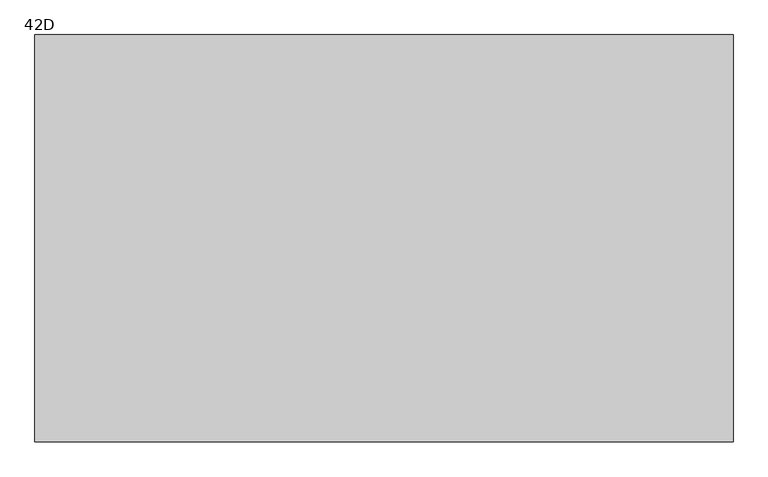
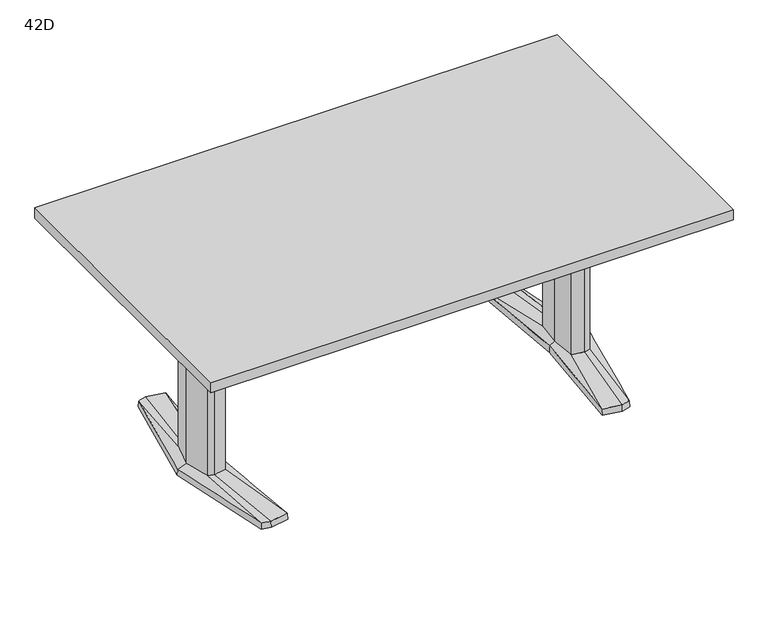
"""IFC4 building model written with IfcOpenShell, lengths in millimetres: furniture geometry, Coalesse_AM_Table_Conference_ETable2_Rectangular_72in_AluminiumBase : 42D."""

from ifc_helpers import new_model, si_unit, frame, origin, place, context, project, spatial, polyline, outline, extrude, source, transform, mapped, element, save
from ifc_brep_helpers import plane_surface, spline_surface, advanced_brep


def furniture_42d_c484a762(model_context):
    return source(origin(), model_context, "Body", "SolidModel", [
        advanced_brep(
        [(614.8503471, -379.3768856, 25.4), (644.5756636, -371.5332654, 25.4), (668.2327243, -89.293702, 36.5125), (648.9795254, -94.605478, 36.5125), (606.0521001, -87.0529327, 36.5125), (551.7612538, -368.5071562, 25.4), (597.9364207, 0.0, 36.5125), (579.8389754, 0.3970149, 25.4), (606.0521001, 87.0529327, 36.5125), (551.7615002, 368.5172593, 25.4), (648.9795254, 94.605478, 36.5125), (614.8502233, 379.3769183, 25.4), (668.2327243, 89.293702, 36.5125), (644.7535458, 371.4863276, 25.4), (692.1595251, 0.0, 36.5125), (721.4851663, 0.0003516, 25.4), (578.2468742, 0.3968871, 3.175), (550.06875, 369.8367279, 3.175), (614.9213004, 381.0, 3.175), (646.1093245, 372.7704151, 3.175), (723.10625, 0.0, 3.175), (645.9309817, -372.8174744, 3.175), (614.9213004, -381.0, 3.175), (550.06875, -369.8264415, 3.175), (649.5979264, 107.6121478, 3.175), (594.3065451, 97.8843184, 3.175), (585.1810887, 0.0, 3.175), (594.3065451, -97.8843184, 3.175), (649.5979264, -107.6121478, 3.175), (678.6183473, -99.6056872, 3.175), (705.3083085, 0.0, 3.175), (678.6183473, 99.6056872, 3.175), (613.4286812, 346.9152841, 3.175), (557.7811371, 337.3364985, 3.175), (560.1889918, 324.8641942, 3.175), (612.8600644, 333.9306305, 3.175), (648.6725609, 324.4807859, 3.175), (647.5544526, 337.9105158, 3.175), (613.4286812, -346.9152841, 3.175), (647.5544526, -337.9105158, 3.175), (648.6725609, -324.4807859, 3.175), (612.8600644, -333.9306305, 3.175), (560.1889918, -324.8641942, 3.175), (557.7811371, -337.3364985, 3.175), (649.5979264, 107.6121478, 0.0), (678.6183473, 99.6056872, 0.0), (705.3083085, 0.0, 0.0), (678.6183473, -99.6056872, 0.0), (649.5979264, -107.6121478, 0.0), (594.3065451, -97.8843184, 0.0), (585.1810887, 0.0, 0.0), (594.3065451, 97.8843184, 0.0), (613.4286812, 346.9152841, 0.0), (647.5544526, 337.9105158, 0.0), (648.6725609, 324.4807859, 0.0), (612.8600644, 333.9306305, 0.0), (560.1889918, 324.8641942, 0.0), (557.7811371, 337.3364985, 0.0), (613.4286812, -346.9152841, 0.0), (557.7811371, -337.3364985, 0.0), (560.1889918, -324.8641942, 0.0), (612.8600644, -333.9306305, 0.0), (648.6725609, -324.4807859, 0.0), (647.5544526, -337.9105158, 0.0), (668.2327243, 89.293702, 698.5), (648.9795254, 94.605478, 698.5), (606.0521001, 87.0529327, 698.5), (597.9364207, 0.0, 698.5), (606.0521001, -87.0529327, 698.5), (648.9795254, -94.605478, 698.5), (668.2327243, -89.293702, 698.5), (692.1595251, 0.0, 698.5)],
        [
            (0, 1),
            (1, 2),
            (2, 3),
            (3, 0),
            (3, 4),
            (4, 5),
            (5, 0),
            (4, 6),
            (6, 7),
            (7, 5),
            (6, 8),
            (8, 9),
            (9, 7),
            (8, 10),
            (10, 11),
            (11, 9),
            (10, 12),
            (12, 13),
            (13, 11),
            (12, 14),
            (14, 15),
            (15, 13),
            (1, 15),
            (14, 2),
            (16, 17),
            (17, 18),
            (18, 19),
            (19, 20),
            (20, 21),
            (21, 22),
            (22, 23),
            (23, 16),
            (24, 25),
            (25, 26),
            (26, 27),
            (27, 28),
            (28, 29),
            (29, 30),
            (30, 31),
            (31, 24),
            (32, 33),
            (33, 34),
            (34, 35),
            (35, 36),
            (36, 37),
            (37, 32),
            (38, 39),
            (39, 40),
            (40, 41),
            (41, 42),
            (42, 43),
            (43, 38),
            (16, 7),
            (9, 17),
            (11, 18),
            (13, 19),
            (15, 20),
            (1, 21),
            (0, 22),
            (5, 23),
            (44, 45),
            (45, 46),
            (46, 47),
            (47, 48),
            (48, 49),
            (49, 50),
            (50, 51),
            (51, 44),
            (52, 53),
            (53, 54),
            (54, 55),
            (55, 56),
            (56, 57),
            (57, 52),
            (58, 59),
            (59, 60),
            (60, 61),
            (61, 62),
            (62, 63),
            (63, 58),
            (44, 24),
            (31, 45),
            (30, 46),
            (29, 47),
            (28, 48),
            (27, 49),
            (26, 50),
            (25, 51),
            (52, 32),
            (37, 53),
            (36, 54),
            (35, 55),
            (34, 56),
            (33, 57),
            (58, 38),
            (43, 59),
            (42, 60),
            (41, 61),
            (40, 62),
            (39, 63),
            (64, 65),
            (65, 66),
            (66, 67),
            (67, 68),
            (68, 69),
            (69, 70),
            (70, 71),
            (71, 64),
            (71, 14),
            (12, 64),
            (70, 2),
            (69, 3),
            (68, 4),
            (67, 6),
            (66, 8),
            (65, 10),
        ],
        [
            spline_surface(1, 1, [[(644.5756636, -371.5332654, 25.4), (614.8503471, -379.3768856, 25.4)], [(668.2327243, -89.293702, 36.5125), (648.9795254, -94.605478, 36.5125)]], [2, 2], [2, 2], [0.0, 1.0], [0.0, 1.0]),
            spline_surface(1, 1, [[(614.8503471, -379.3768856, 25.4), (551.7612538, -368.5071562, 25.4)], [(648.9795254, -94.605478, 36.5125), (606.0521001, -87.0529327, 36.5125)]], [2, 2], [2, 2], [0.0, 1.0], [0.0, 1.0]),
            spline_surface(1, 1, [[(551.7612538, -368.5071562, 25.4), (579.8389754, 0.3970149, 25.4)], [(606.0521001, -87.0529327, 36.5125), (597.9364207, 0.0, 36.5125)]], [2, 2], [2, 2], [0.0, 1.0], [0.0, 1.0]),
            spline_surface(1, 1, [[(579.8389754, 0.3970149, 25.4), (551.7615002, 368.5172593, 25.4)], [(597.9364207, 0.0, 36.5125), (606.0521001, 87.0529327, 36.5125)]], [2, 2], [2, 2], [0.0, 1.0], [0.0, 1.0]),
            spline_surface(1, 1, [[(551.7615002, 368.5172593, 25.4), (614.8502233, 379.3769183, 25.4)], [(606.0521001, 87.0529327, 36.5125), (648.9795254, 94.605478, 36.5125)]], [2, 2], [2, 2], [0.0, 1.0], [0.0, 1.0]),
            spline_surface(1, 1, [[(614.8502233, 379.3769183, 25.4), (644.7535458, 371.4863276, 25.4)], [(648.9795254, 94.605478, 36.5125), (668.2327243, 89.293702, 36.5125)]], [2, 2], [2, 2], [0.0, 1.0], [0.0, 1.0]),
            spline_surface(1, 1, [[(644.7535458, 371.4863276, 25.4), (721.4851663, 0.0003516, 25.4)], [(668.2327243, 89.293702, 36.5125), (692.1595251, 0.0, 36.5125)]], [2, 2], [2, 2], [0.0, 1.0], [0.0, 1.0]),
            spline_surface(1, 1, [[(721.4851663, 0.0003516, 25.4), (644.5756636, -371.5332654, 25.4)], [(692.1595251, 0.0, 36.5125), (668.2327243, -89.293702, 36.5125)]], [2, 2], [2, 2], [0.0, 1.0], [0.0, 1.0]),
            plane_surface(frame((615.4216914, 0.0450143, 3.175), z_axis=(0.0, 0.0, -1.0), x_axis=(-0.9669048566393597, -0.2551372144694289, 0.0))),
            plane_surface(frame((564.1578121, 185.1168075, 3.175), z_axis=(-0.9945699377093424, -0.07585840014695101, 0.0712470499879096), x_axis=(-0.07605167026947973, 0.9971038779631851, 0.0))),
            plane_surface(frame((582.4950252, 375.418364, 3.175), z_axis=(-0.1692071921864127, 0.9830019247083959, 0.07124704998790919), x_axis=(0.985506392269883, 0.16963829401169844, 0.0))),
            plane_surface(frame((630.5153124, 376.8852076, 3.175), z_axis=(0.2544888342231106, 0.9644476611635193, 0.07124704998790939), x_axis=(0.9669048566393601, -0.25513721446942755, 0.0))),
            plane_surface(frame((684.6077872, 186.3852076, 3.175), z_axis=(0.9768383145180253, 0.2017690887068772, 0.07124704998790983), x_axis=(0.20228315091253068, -0.9793270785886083, 0.0))),
            plane_surface(frame((684.5186158, -186.4087372, 3.175), z_axis=(0.9767507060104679, -0.20219276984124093, 0.07124704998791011), x_axis=(-0.2027079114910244, -0.9792392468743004, 0.0))),
            plane_surface(frame((630.426141, -376.9087372, 3.175), z_axis=(0.2544888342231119, -0.9644476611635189, 0.0712470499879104), x_axis=(-0.9669048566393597, -0.2551372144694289, 0.0))),
            plane_surface(frame((582.4950252, -375.4132207, 3.175), z_axis=(-0.16935861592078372, -0.982975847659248, 0.07124704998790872), x_axis=(-0.9854802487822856, 0.16979010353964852, 0.0))),
            plane_surface(frame((564.1578121, -184.7147772, 3.175), z_axis=(-0.9945820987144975, 0.07569878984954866, 0.07124704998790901), x_axis=(0.07589165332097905, 0.9971160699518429, 0.0))),
            plane_surface(frame((652.3571479, 106.8509046, 0.0), z_axis=(0.0, 0.0, -1.0000000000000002), x_axis=(-0.9639855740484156, 0.26595453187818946, 0.0))),
            plane_surface(frame((649.5979264, 107.6121478, 3.175), z_axis=(0.26595453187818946, 0.9639855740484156, 0.0), x_axis=(0.0, 0.0, -1.0))),
            plane_surface(frame((678.6183473, 99.6056872, 3.175), z_axis=(0.9659241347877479, 0.2588253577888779, 0.0), x_axis=(0.0, 0.0, -1.0))),
            plane_surface(frame((705.3083085, 0.0, 3.175), z_axis=(0.9659241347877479, -0.2588253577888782, 0.0), x_axis=(0.0, 0.0, -1.0))),
            plane_surface(frame((678.6183473, -99.6056872, 3.175), z_axis=(0.26595453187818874, -0.9639855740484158, 0.0), x_axis=(0.0, 0.0, -1.0))),
            plane_surface(frame((649.5979264, -107.6121478, 3.175), z_axis=(-0.17327617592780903, -0.9848732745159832, 0.0), x_axis=(0.0, 0.0, -1.0))),
            plane_surface(frame((594.3065451, -97.8843184, 3.175), z_axis=(-0.9956824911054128, -0.0928244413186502, 0.0), x_axis=(0.0, 0.0, -1.0))),
            plane_surface(frame((585.1810887, 0.0, 3.175), z_axis=(-0.9956824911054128, 0.09282444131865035, 0.0), x_axis=(0.0, 0.0, -1.0))),
            plane_surface(frame((594.3065451, 97.8843184, 3.175), z_axis=(-0.17327617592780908, 0.984873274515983, 0.0), x_axis=(0.0, 0.0, -1.0))),
            plane_surface(frame((613.4286812, 346.9152841, 3.175), z_axis=(0.25513721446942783, 0.9669048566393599, 0.0), x_axis=(0.0, 0.0, -1.0))),
            plane_surface(frame((647.5544526, 337.9105158, 3.175), z_axis=(0.9965521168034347, 0.0829691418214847, 0.0), x_axis=(0.0, 0.0, -1.0))),
            plane_surface(frame((648.6725609, 324.4807859, 3.175), z_axis=(-0.25513721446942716, -0.9669048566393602, 0.0), x_axis=(0.0, 0.0, -1.0))),
            plane_surface(frame((612.8600644, 333.9306305, 3.175), z_axis=(0.16963829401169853, -0.985506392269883, 0.0), x_axis=(0.0, 0.0, -1.0))),
            plane_surface(frame((560.1889918, 324.8641942, 3.175), z_axis=(-0.9818699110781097, -0.18955600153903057, 0.0), x_axis=(0.0, 0.0, -1.0))),
            plane_surface(frame((557.7811371, 337.3364985, 3.175), z_axis=(-0.16963829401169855, 0.9855063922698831, 0.0), x_axis=(0.0, 0.0, -1.0))),
            plane_surface(frame((613.4286812, -346.9152841, 3.175), z_axis=(-0.1696382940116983, -0.9855063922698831, 0.0), x_axis=(0.0, 0.0, -1.0))),
            plane_surface(frame((557.7811371, -337.3364985, 3.175), z_axis=(-0.9818699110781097, 0.18955600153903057, 0.0), x_axis=(0.0, 0.0, -1.0))),
            plane_surface(frame((560.1889918, -324.8641942, 3.175), z_axis=(0.16963829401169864, 0.985506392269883, 0.0), x_axis=(0.0, 0.0, -1.0))),
            plane_surface(frame((612.8600644, -333.9306305, 3.175), z_axis=(-0.2551372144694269, 0.9669048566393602, 0.0), x_axis=(0.0, 0.0, -1.0))),
            plane_surface(frame((648.6725609, -324.4807859, 3.175), z_axis=(0.9965521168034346, -0.0829691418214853, 0.0), x_axis=(0.0, 0.0, -1.0))),
            plane_surface(frame((647.5544526, -337.9105158, 3.175), z_axis=(0.2551372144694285, -0.9669048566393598, 0.0), x_axis=(0.0, 0.0, -1.0))),
            plane_surface(frame((692.1595251, 0.0, 698.5), z_axis=(0.0, 0.0, 1.0), x_axis=(0.25882535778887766, -0.965924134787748, 0.0))),
            plane_surface(frame((668.2327243, 89.293702, 698.5), z_axis=(0.965924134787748, 0.25882535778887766, 0.0), x_axis=(0.0, 0.0, -1.0))),
            plane_surface(frame((692.1595251, 0.0, 698.5), z_axis=(0.965924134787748, -0.2588253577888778, 0.0), x_axis=(0.0, 0.0, -1.0))),
            plane_surface(frame((668.2327243, -89.293702, 698.5), z_axis=(0.2659545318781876, -0.963985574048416, 0.0), x_axis=(0.0, 0.0, -1.0))),
            plane_surface(frame((648.9795254, -94.605478, 698.5), z_axis=(-0.1732761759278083, -0.9848732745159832, 0.0), x_axis=(0.0, 0.0, -1.0))),
            plane_surface(frame((606.0521001, -87.0529327, 698.5), z_axis=(-0.9956824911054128, -0.0928244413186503, 0.0), x_axis=(0.0, 0.0, -1.0))),
            plane_surface(frame((597.9364207, 0.0, 698.5), z_axis=(-0.9956824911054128, 0.09282444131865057, 0.0), x_axis=(0.0, 0.0, -1.0))),
            plane_surface(frame((606.0521001, 87.0529327, 698.5), z_axis=(-0.17327617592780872, 0.9848732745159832, 0.0), x_axis=(0.0, 0.0, -1.0))),
            plane_surface(frame((648.9795254, 94.605478, 698.5), z_axis=(0.26595453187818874, 0.9639855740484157, 0.0), x_axis=(0.0, 0.0, -1.0))),
        ],
        [
            (0, [[1, 2, 3, 4]]),
            (1, [[5, 6, 7, -4]]),
            (2, [[8, 9, 10, -6]]),
            (3, [[11, 12, 13, -9]]),
            (4, [[14, 15, 16, -12]]),
            (5, [[17, 18, 19, -15]]),
            (6, [[20, 21, 22, -18]]),
            (7, [[23, -21, 24, -2]]),
            (8, [[25, 26, 27, 28, 29, 30, 31, 32], [33, 34, 35, 36, 37, 38, 39, 40], [41, 42, 43, 44, 45, 46], [47, 48, 49, 50, 51, 52]]),
            (9, [[53, -13, 54, -25]]),
            (10, [[-54, -16, 55, -26]]),
            (11, [[-55, -19, 56, -27]]),
            (12, [[-56, -22, 57, -28]]),
            (13, [[-57, -23, 58, -29]]),
            (14, [[-58, -1, 59, -30]]),
            (15, [[-59, -7, 60, -31]]),
            (16, [[-60, -10, -53, -32]]),
            (17, [[61, 62, 63, 64, 65, 66, 67, 68]]),
            (17, [[69, 70, 71, 72, 73, 74]]),
            (17, [[75, 76, 77, 78, 79, 80]]),
            (18, [[81, -40, 82, -61]]),
            (19, [[-82, -39, 83, -62]]),
            (20, [[-83, -38, 84, -63]]),
            (21, [[-84, -37, 85, -64]]),
            (22, [[-85, -36, 86, -65]]),
            (23, [[-86, -35, 87, -66]]),
            (24, [[-87, -34, 88, -67]]),
            (25, [[-88, -33, -81, -68]]),
            (26, [[89, -46, 90, -69]]),
            (27, [[-90, -45, 91, -70]]),
            (28, [[-91, -44, 92, -71]]),
            (29, [[-92, -43, 93, -72]]),
            (30, [[-93, -42, 94, -73]]),
            (31, [[-94, -41, -89, -74]]),
            (32, [[95, -52, 96, -75]]),
            (33, [[-96, -51, 97, -76]]),
            (34, [[-97, -50, 98, -77]]),
            (35, [[-98, -49, 99, -78]]),
            (36, [[-99, -48, 100, -79]]),
            (37, [[-100, -47, -95, -80]]),
            (38, [[101, 102, 103, 104, 105, 106, 107, 108]]),
            (39, [[109, -20, 110, -108]]),
            (40, [[111, -24, -109, -107]]),
            (41, [[112, -3, -111, -106]]),
            (42, [[113, -5, -112, -105]]),
            (43, [[114, -8, -113, -104]]),
            (44, [[115, -11, -114, -103]]),
            (45, [[116, -14, -115, -102]]),
            (46, [[-110, -17, -116, -101]]),
        ],
    ),
        advanced_brep(
        [(-614.8503471, -379.3768856, 25.4), (-648.9795254, -94.605478, 36.5125), (-668.2327243, -89.293702, 36.5125), (-644.5756636, -371.5332654, 25.4), (-551.7612538, -368.5071562, 25.4), (-606.0521001, -87.0529327, 36.5125), (-579.8389754, 0.3970149, 25.4), (-597.9364207, 0.0, 36.5125), (-551.7615002, 368.5172593, 25.4), (-606.0521001, 87.0529327, 36.5125), (-614.8502233, 379.3769183, 25.4), (-648.9795254, 94.605478, 36.5125), (-644.7535458, 371.4863276, 25.4), (-668.2327243, 89.293702, 36.5125), (-721.4851663, 0.0003516, 25.4), (-692.1595251, 0.0, 36.5125), (-578.2468742, 0.3968871, 3.175), (-550.06875, -369.8264415, 3.175), (-614.9213004, -381.0, 3.175), (-645.9309817, -372.8174744, 3.175), (-723.10625, 0.0, 3.175), (-646.1093245, 372.7704151, 3.175), (-614.9213004, 381.0, 3.175), (-550.06875, 369.8367279, 3.175), (-649.5979264, 107.6121478, 3.175), (-678.6183473, 99.6056872, 3.175), (-705.3083085, 0.0, 3.175), (-678.6183473, -99.6056872, 3.175), (-649.5979264, -107.6121478, 3.175), (-594.3065451, -97.8843184, 3.175), (-585.1810887, 0.0, 3.175), (-594.3065451, 97.8843184, 3.175), (-613.4286812, 346.9152841, 3.175), (-647.5544526, 337.9105158, 3.175), (-648.6725609, 324.4807859, 3.175), (-612.8600644, 333.9306305, 3.175), (-560.1889918, 324.8641942, 3.175), (-557.7811371, 337.3364985, 3.175), (-613.4286812, -346.9152841, 3.175), (-557.7811371, -337.3364985, 3.175), (-560.1889918, -324.8641942, 3.175), (-612.8600644, -333.9306305, 3.175), (-648.6725609, -324.4807859, 3.175), (-647.5544526, -337.9105158, 3.175), (-649.5979264, 107.6121478, 0.0), (-594.3065451, 97.8843184, 0.0), (-585.1810887, 0.0, 0.0), (-594.3065451, -97.8843184, 0.0), (-649.5979264, -107.6121478, 0.0), (-678.6183473, -99.6056872, 0.0), (-705.3083085, 0.0, 0.0), (-678.6183473, 99.6056872, 0.0), (-613.4286812, 346.9152841, 0.0), (-557.7811371, 337.3364985, 0.0), (-560.1889918, 324.8641942, 0.0), (-612.8600644, 333.9306305, 0.0), (-648.6725609, 324.4807859, 0.0), (-647.5544526, 337.9105158, 0.0), (-613.4286812, -346.9152841, 0.0), (-647.5544526, -337.9105158, 0.0), (-648.6725609, -324.4807859, 0.0), (-612.8600644, -333.9306305, 0.0), (-560.1889918, -324.8641942, 0.0), (-557.7811371, -337.3364985, 0.0), (-668.2327243, 89.293702, 698.5), (-692.1595251, 0.0, 698.5), (-668.2327243, -89.293702, 698.5), (-648.9795254, -94.605478, 698.5), (-606.0521001, -87.0529327, 698.5), (-597.9364207, 0.0, 698.5), (-606.0521001, 87.0529327, 698.5), (-648.9795254, 94.605478, 698.5)],
        [
            (0, 1),
            (1, 2),
            (2, 3),
            (3, 0),
            (0, 4),
            (4, 5),
            (5, 1),
            (4, 6),
            (6, 7),
            (7, 5),
            (6, 8),
            (8, 9),
            (9, 7),
            (8, 10),
            (10, 11),
            (11, 9),
            (10, 12),
            (12, 13),
            (13, 11),
            (12, 14),
            (14, 15),
            (15, 13),
            (2, 15),
            (14, 3),
            (16, 17),
            (17, 18),
            (18, 19),
            (19, 20),
            (20, 21),
            (21, 22),
            (22, 23),
            (23, 16),
            (24, 25),
            (25, 26),
            (26, 27),
            (27, 28),
            (28, 29),
            (29, 30),
            (30, 31),
            (31, 24),
            (32, 33),
            (33, 34),
            (34, 35),
            (35, 36),
            (36, 37),
            (37, 32),
            (38, 39),
            (39, 40),
            (40, 41),
            (41, 42),
            (42, 43),
            (43, 38),
            (23, 8),
            (6, 16),
            (22, 10),
            (21, 12),
            (20, 14),
            (19, 3),
            (18, 0),
            (17, 4),
            (44, 45),
            (45, 46),
            (46, 47),
            (47, 48),
            (48, 49),
            (49, 50),
            (50, 51),
            (51, 44),
            (52, 53),
            (53, 54),
            (54, 55),
            (55, 56),
            (56, 57),
            (57, 52),
            (58, 59),
            (59, 60),
            (60, 61),
            (61, 62),
            (62, 63),
            (63, 58),
            (51, 25),
            (24, 44),
            (50, 26),
            (49, 27),
            (48, 28),
            (47, 29),
            (46, 30),
            (45, 31),
            (57, 33),
            (32, 52),
            (56, 34),
            (55, 35),
            (54, 36),
            (53, 37),
            (63, 39),
            (38, 58),
            (62, 40),
            (61, 41),
            (60, 42),
            (59, 43),
            (64, 65),
            (65, 66),
            (66, 67),
            (67, 68),
            (68, 69),
            (69, 70),
            (70, 71),
            (71, 64),
            (64, 13),
            (15, 65),
            (2, 66),
            (1, 67),
            (5, 68),
            (7, 69),
            (9, 70),
            (11, 71),
        ],
        [
            spline_surface(1, 1, [[(-644.5756636, -371.5332654, 25.4), (-668.2327243, -89.293702, 36.5125)], [(-614.8503471, -379.3768856, 25.4), (-648.9795254, -94.605478, 36.5125)]], [2, 2], [2, 2], [0.0, 1.0], [0.0, 1.0]),
            spline_surface(1, 1, [[(-614.8503471, -379.3768856, 25.4), (-648.9795254, -94.605478, 36.5125)], [(-551.7612538, -368.5071562, 25.4), (-606.0521001, -87.0529327, 36.5125)]], [2, 2], [2, 2], [0.0, 1.0], [0.0, 1.0]),
            spline_surface(1, 1, [[(-551.7612538, -368.5071562, 25.4), (-606.0521001, -87.0529327, 36.5125)], [(-579.8389754, 0.3970149, 25.4), (-597.9364207, 0.0, 36.5125)]], [2, 2], [2, 2], [0.0, 1.0], [0.0, 1.0]),
            spline_surface(1, 1, [[(-579.8389754, 0.3970149, 25.4), (-597.9364207, 0.0, 36.5125)], [(-551.7615002, 368.5172593, 25.4), (-606.0521001, 87.0529327, 36.5125)]], [2, 2], [2, 2], [0.0, 1.0], [0.0, 1.0]),
            spline_surface(1, 1, [[(-551.7615002, 368.5172593, 25.4), (-606.0521001, 87.0529327, 36.5125)], [(-614.8502233, 379.3769183, 25.4), (-648.9795254, 94.605478, 36.5125)]], [2, 2], [2, 2], [0.0, 1.0], [0.0, 1.0]),
            spline_surface(1, 1, [[(-614.8502233, 379.3769183, 25.4), (-648.9795254, 94.605478, 36.5125)], [(-644.7535458, 371.4863276, 25.4), (-668.2327243, 89.293702, 36.5125)]], [2, 2], [2, 2], [0.0, 1.0], [0.0, 1.0]),
            spline_surface(1, 1, [[(-644.7535458, 371.4863276, 25.4), (-668.2327243, 89.293702, 36.5125)], [(-721.4851663, 0.0003516, 25.4), (-692.1595251, 0.0, 36.5125)]], [2, 2], [2, 2], [0.0, 1.0], [0.0, 1.0]),
            spline_surface(1, 1, [[(-721.4851663, 0.0003516, 25.4), (-692.1595251, 0.0, 36.5125)], [(-644.5756636, -371.5332654, 25.4), (-668.2327243, -89.293702, 36.5125)]], [2, 2], [2, 2], [0.0, 1.0], [0.0, 1.0]),
            plane_surface(frame((-615.4216914, 0.0450143, 3.175), z_axis=(0.0, 0.0, -1.0), x_axis=(0.9669048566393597, -0.2551372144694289, 0.0))),
            plane_surface(frame((-564.1578121, 185.1168075, 3.175), z_axis=(0.9945699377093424, -0.07585840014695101, 0.0712470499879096), x_axis=(0.07605167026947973, 0.9971038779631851, 0.0))),
            plane_surface(frame((-582.4950252, 375.418364, 3.175), z_axis=(0.1692071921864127, 0.9830019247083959, 0.07124704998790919), x_axis=(-0.985506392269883, 0.16963829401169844, 0.0))),
            plane_surface(frame((-630.5153124, 376.8852076, 3.175), z_axis=(-0.2544888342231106, 0.9644476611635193, 0.07124704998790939), x_axis=(-0.9669048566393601, -0.25513721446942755, 0.0))),
            plane_surface(frame((-684.6077872, 186.3852076, 3.175), z_axis=(-0.9768383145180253, 0.2017690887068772, 0.07124704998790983), x_axis=(-0.20228315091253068, -0.9793270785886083, 0.0))),
            plane_surface(frame((-684.5186158, -186.4087372, 3.175), z_axis=(-0.9767507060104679, -0.20219276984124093, 0.07124704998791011), x_axis=(0.2027079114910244, -0.9792392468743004, 0.0))),
            plane_surface(frame((-630.426141, -376.9087372, 3.175), z_axis=(-0.2544888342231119, -0.9644476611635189, 0.0712470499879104), x_axis=(0.9669048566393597, -0.2551372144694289, 0.0))),
            plane_surface(frame((-582.4950252, -375.4132207, 3.175), z_axis=(0.16935861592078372, -0.982975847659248, 0.07124704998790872), x_axis=(0.9854802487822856, 0.16979010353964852, 0.0))),
            plane_surface(frame((-564.1578121, -184.7147772, 3.175), z_axis=(0.9945820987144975, 0.07569878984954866, 0.07124704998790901), x_axis=(-0.07589165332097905, 0.9971160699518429, 0.0))),
            plane_surface(frame((-652.3571479, 106.8509046, 0.0), z_axis=(0.0, 0.0, -1.0000000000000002), x_axis=(0.9639855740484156, 0.26595453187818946, 0.0))),
            plane_surface(frame((-649.5979264, 107.6121478, 3.175), z_axis=(-0.26595453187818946, 0.9639855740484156, 0.0), x_axis=(0.0, 0.0, -1.0))),
            plane_surface(frame((-678.6183473, 99.6056872, 3.175), z_axis=(-0.9659241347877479, 0.2588253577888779, 0.0), x_axis=(0.0, 0.0, -1.0))),
            plane_surface(frame((-705.3083085, 0.0, 3.175), z_axis=(-0.9659241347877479, -0.2588253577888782, 0.0), x_axis=(0.0, 0.0, -1.0))),
            plane_surface(frame((-678.6183473, -99.6056872, 3.175), z_axis=(-0.26595453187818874, -0.9639855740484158, 0.0), x_axis=(0.0, 0.0, -1.0))),
            plane_surface(frame((-649.5979264, -107.6121478, 3.175), z_axis=(0.17327617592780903, -0.9848732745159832, 0.0), x_axis=(0.0, 0.0, -1.0))),
            plane_surface(frame((-594.3065451, -97.8843184, 3.175), z_axis=(0.9956824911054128, -0.0928244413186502, 0.0), x_axis=(0.0, 0.0, -1.0))),
            plane_surface(frame((-585.1810887, 0.0, 3.175), z_axis=(0.9956824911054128, 0.09282444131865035, 0.0), x_axis=(0.0, 0.0, -1.0))),
            plane_surface(frame((-594.3065451, 97.8843184, 3.175), z_axis=(0.17327617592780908, 0.984873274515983, 0.0), x_axis=(0.0, 0.0, -1.0))),
            plane_surface(frame((-613.4286812, 346.9152841, 3.175), z_axis=(-0.25513721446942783, 0.9669048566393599, 0.0), x_axis=(0.0, 0.0, -1.0))),
            plane_surface(frame((-647.5544526, 337.9105158, 3.175), z_axis=(-0.9965521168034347, 0.0829691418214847, 0.0), x_axis=(0.0, 0.0, -1.0))),
            plane_surface(frame((-648.6725609, 324.4807859, 3.175), z_axis=(0.25513721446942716, -0.9669048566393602, 0.0), x_axis=(0.0, 0.0, -1.0))),
            plane_surface(frame((-612.8600644, 333.9306305, 3.175), z_axis=(-0.16963829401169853, -0.985506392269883, 0.0), x_axis=(0.0, 0.0, -1.0))),
            plane_surface(frame((-560.1889918, 324.8641942, 3.175), z_axis=(0.9818699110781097, -0.18955600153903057, 0.0), x_axis=(0.0, 0.0, -1.0))),
            plane_surface(frame((-557.7811371, 337.3364985, 3.175), z_axis=(0.16963829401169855, 0.9855063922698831, 0.0), x_axis=(0.0, 0.0, -1.0))),
            plane_surface(frame((-613.4286812, -346.9152841, 3.175), z_axis=(0.1696382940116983, -0.9855063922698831, 0.0), x_axis=(0.0, 0.0, -1.0))),
            plane_surface(frame((-557.7811371, -337.3364985, 3.175), z_axis=(0.9818699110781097, 0.18955600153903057, 0.0), x_axis=(0.0, 0.0, -1.0))),
            plane_surface(frame((-560.1889918, -324.8641942, 3.175), z_axis=(-0.16963829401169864, 0.985506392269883, 0.0), x_axis=(0.0, 0.0, -1.0))),
            plane_surface(frame((-612.8600644, -333.9306305, 3.175), z_axis=(0.2551372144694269, 0.9669048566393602, 0.0), x_axis=(0.0, 0.0, -1.0))),
            plane_surface(frame((-648.6725609, -324.4807859, 3.175), z_axis=(-0.9965521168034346, -0.0829691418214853, 0.0), x_axis=(0.0, 0.0, -1.0))),
            plane_surface(frame((-647.5544526, -337.9105158, 3.175), z_axis=(-0.2551372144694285, -0.9669048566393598, 0.0), x_axis=(0.0, 0.0, -1.0))),
            plane_surface(frame((-692.1595251, 0.0, 698.5), z_axis=(0.0, 0.0, 1.0), x_axis=(-0.25882535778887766, -0.965924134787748, 0.0))),
            plane_surface(frame((-668.2327243, 89.293702, 698.5), z_axis=(-0.965924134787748, 0.25882535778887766, 0.0), x_axis=(0.0, 0.0, -1.0))),
            plane_surface(frame((-692.1595251, 0.0, 698.5), z_axis=(-0.965924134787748, -0.2588253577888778, 0.0), x_axis=(0.0, 0.0, -1.0))),
            plane_surface(frame((-668.2327243, -89.293702, 698.5), z_axis=(-0.2659545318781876, -0.963985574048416, 0.0), x_axis=(0.0, 0.0, -1.0))),
            plane_surface(frame((-648.9795254, -94.605478, 698.5), z_axis=(0.1732761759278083, -0.9848732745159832, 0.0), x_axis=(0.0, 0.0, -1.0))),
            plane_surface(frame((-606.0521001, -87.0529327, 698.5), z_axis=(0.9956824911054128, -0.0928244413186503, 0.0), x_axis=(0.0, 0.0, -1.0))),
            plane_surface(frame((-597.9364207, 0.0, 698.5), z_axis=(0.9956824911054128, 0.09282444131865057, 0.0), x_axis=(0.0, 0.0, -1.0))),
            plane_surface(frame((-606.0521001, 87.0529327, 698.5), z_axis=(0.17327617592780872, 0.9848732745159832, 0.0), x_axis=(0.0, 0.0, -1.0))),
            plane_surface(frame((-648.9795254, 94.605478, 698.5), z_axis=(-0.26595453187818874, 0.9639855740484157, 0.0), x_axis=(0.0, 0.0, -1.0))),
        ],
        [
            (0, [[1, 2, 3, 4]]),
            (1, [[-1, 5, 6, 7]]),
            (2, [[-6, 8, 9, 10]]),
            (3, [[-9, 11, 12, 13]]),
            (4, [[-12, 14, 15, 16]]),
            (5, [[-15, 17, 18, 19]]),
            (6, [[-18, 20, 21, 22]]),
            (7, [[-3, 23, -21, 24]]),
            (8, [[25, 26, 27, 28, 29, 30, 31, 32], [33, 34, 35, 36, 37, 38, 39, 40], [41, 42, 43, 44, 45, 46], [47, 48, 49, 50, 51, 52]]),
            (9, [[-32, 53, -11, 54]]),
            (10, [[-31, 55, -14, -53]]),
            (11, [[-30, 56, -17, -55]]),
            (12, [[-29, 57, -20, -56]]),
            (13, [[-28, 58, -24, -57]]),
            (14, [[-27, 59, -4, -58]]),
            (15, [[-26, 60, -5, -59]]),
            (16, [[-25, -54, -8, -60]]),
            (17, [[61, 62, 63, 64, 65, 66, 67, 68]]),
            (17, [[69, 70, 71, 72, 73, 74]]),
            (17, [[75, 76, 77, 78, 79, 80]]),
            (18, [[-68, 81, -33, 82]]),
            (19, [[-67, 83, -34, -81]]),
            (20, [[-66, 84, -35, -83]]),
            (21, [[-65, 85, -36, -84]]),
            (22, [[-64, 86, -37, -85]]),
            (23, [[-63, 87, -38, -86]]),
            (24, [[-62, 88, -39, -87]]),
            (25, [[-61, -82, -40, -88]]),
            (26, [[-74, 89, -41, 90]]),
            (27, [[-73, 91, -42, -89]]),
            (28, [[-72, 92, -43, -91]]),
            (29, [[-71, 93, -44, -92]]),
            (30, [[-70, 94, -45, -93]]),
            (31, [[-69, -90, -46, -94]]),
            (32, [[-80, 95, -47, 96]]),
            (33, [[-79, 97, -48, -95]]),
            (34, [[-78, 98, -49, -97]]),
            (35, [[-77, 99, -50, -98]]),
            (36, [[-76, 100, -51, -99]]),
            (37, [[-75, -96, -52, -100]]),
            (38, [[101, 102, 103, 104, 105, 106, 107, 108]]),
            (39, [[-101, 109, -22, 110]]),
            (40, [[-102, -110, -23, 111]]),
            (41, [[-103, -111, -2, 112]]),
            (42, [[-104, -112, -7, 113]]),
            (43, [[-105, -113, -10, 114]]),
            (44, [[-106, -114, -13, 115]]),
            (45, [[-107, -115, -16, 116]]),
            (46, [[-108, -116, -19, -109]]),
        ],
    ),
        extrude(outline(polyline([(-914.4, -533.4), (-914.4, 533.4), (914.4, 533.4), (914.4, -533.4), (-914.4, -533.4)])), frame((0.0, 0.0, 698.5), z_axis=(0.0, 0.0, 1.0), x_axis=(1.0, 0.0, 0.0)), (0.0, 0.0, 1.0), 38.1),
        extrude(outline(polyline([(96.8375, 698.5), (103.1875, 698.5), (103.1875, 476.25), (-103.1875, 476.25), (-103.1875, 698.5), (-96.8375, 698.5), (-96.8375, 482.6), (96.8375, 482.6), (96.8375, 698.5)])), frame((-597.9364207, 0.0, 0.0), z_axis=(1.0, 0.0, 0.0), x_axis=(0.0, 1.0, 0.0)), (0.0, 0.0, 1.0), 1195.8728415),
    ])


if __name__ == "__main__":
    model = new_model("IFC4")
    model_context = context("Model", 3, world=origin())
    ifc_project = project(units=[si_unit("LENGTHUNIT", "METRE", prefix="MILLI")], contexts=[model_context])
    site = spatial("IfcSite", under=ifc_project)
    building = spatial("IfcBuilding", under=site)
    placement = place(None, origin())
    furniture_42d_shape = furniture_42d_c484a762(model_context)
    element("IfcFurniture", 1, ObjectType="Coalesse_AM_Table_Conference_ETable2_Rectangular_72in_AluminiumBase : 42D", at=placement, inside=building, context=model_context, shape_type="MappedRepresentation", body=[
        mapped(furniture_42d_shape, transform((0.0, 0.0, 0.0), x_axis=(1.0, 0.0, 0.0), y_axis=(0.0, 1.0, 0.0), z_axis=(0.0, 0.0, 1.0))),
    ])
    save(model, "model.ifc")
